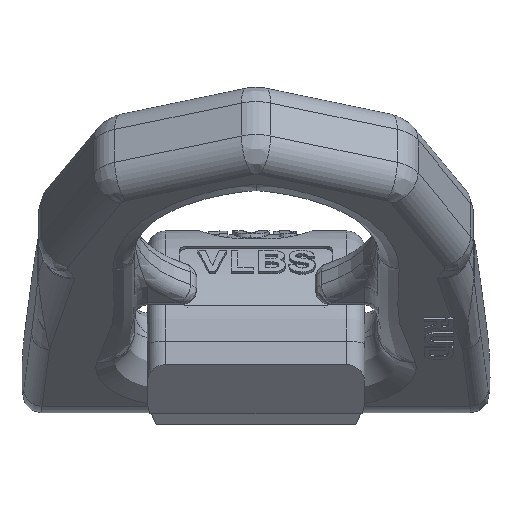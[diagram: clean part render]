
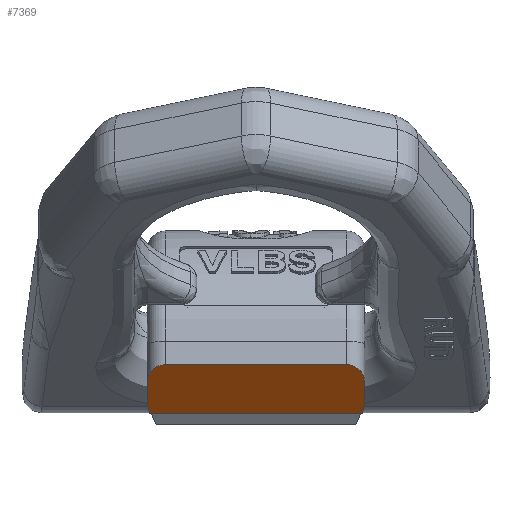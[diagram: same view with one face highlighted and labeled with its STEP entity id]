
A CAD part, top view. The second image highlights one B-rep face of the part: STEP entity #7369.
In plain terms, the highlighted planar face has unit normal (0, -0.643, 0.766).
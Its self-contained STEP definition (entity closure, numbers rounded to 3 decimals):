
#2=DIRECTION('',(0.,-0.766,-0.643));
#3=VECTOR('',#2,5.783);
#4=CARTESIAN_POINT('',(-30.,11.5,33.305));
#5=LINE('',#4,#3);
#59=DIRECTION('',(0.,-0.766,-0.643));
#60=VECTOR('',#59,5.783);
#61=CARTESIAN_POINT('',(30.,11.5,33.305));
#62=LINE('',#61,#60);
#450=CARTESIAN_POINT('',(-29.347,3.,26.172));
#451=CARTESIAN_POINT('',(-29.787,4.335,27.293));
#452=CARTESIAN_POINT('',(-30.,5.692,28.431));
#453=CARTESIAN_POINT('',(-30.,7.07,29.587));
#481=CARTESIAN_POINT('',(25.,16.5,37.5));
#482=CARTESIAN_POINT('',(25.48,16.5,37.5));
#483=CARTESIAN_POINT('',(26.277,16.374,37.395));
#484=CARTESIAN_POINT('',(27.557,15.883,36.983));
#485=CARTESIAN_POINT('',(28.749,14.957,36.205));
#486=CARTESIAN_POINT('',(29.704,13.48,34.966));
#487=CARTESIAN_POINT('',(30.,12.236,33.922));
#488=CARTESIAN_POINT('',(30.,11.5,33.305));
#494=DIRECTION('',(1.,0.,0.));
#495=VECTOR('',#494,50.);
#496=CARTESIAN_POINT('',(-25.,16.5,37.5));
#497=LINE('',#496,#495);
#511=CARTESIAN_POINT('',(-30.,11.5,33.305));
#512=CARTESIAN_POINT('',(-30.,12.236,33.922));
#513=CARTESIAN_POINT('',(-29.704,13.48,34.966));
#514=CARTESIAN_POINT('',(-28.749,14.957,36.205));
#515=CARTESIAN_POINT('',(-27.557,15.883,36.983));
#516=CARTESIAN_POINT('',(-26.277,16.374,37.395));
#517=CARTESIAN_POINT('',(-25.48,16.5,37.5));
#518=CARTESIAN_POINT('',(-25.,16.5,37.5));
#5432=CARTESIAN_POINT('',(30.,7.07,29.587));
#5433=CARTESIAN_POINT('',(30.,5.692,28.431));
#5434=CARTESIAN_POINT('',(29.787,4.335,27.293));
#5435=CARTESIAN_POINT('',(29.347,3.,26.172));
#5458=DIRECTION('',(-1.,0.,0.));
#5459=VECTOR('',#5458,58.693);
#5460=CARTESIAN_POINT('',(29.347,3.,26.172));
#5461=LINE('',#5460,#5459);
#5658=CARTESIAN_POINT('',(25.,16.5,37.5));
#5660=VERTEX_POINT('',#5658);
#5663=CARTESIAN_POINT('',(-25.,16.5,37.5));
#5665=VERTEX_POINT('',#5663);
#5958=CARTESIAN_POINT('',(30.,7.07,29.587));
#5959=VERTEX_POINT('',#5958);
#5960=CARTESIAN_POINT('',(-30.,7.07,29.587));
#5961=VERTEX_POINT('',#5960);
#5964=CARTESIAN_POINT('',(30.,11.5,33.305));
#5965=VERTEX_POINT('',#5964);
#5966=CARTESIAN_POINT('',(-30.,11.5,33.305));
#5967=VERTEX_POINT('',#5966);
#6211=VERTEX_POINT('',#5435);
#6212=VERTEX_POINT('',#450);
#7349=CARTESIAN_POINT('',(36.,16.5,37.5));
#7350=DIRECTION('',(0.,-0.643,0.766));
#7351=DIRECTION('',(0.,-0.766,-0.643));
#7352=AXIS2_PLACEMENT_3D('',#7349,#7350,#7351);
#7353=PLANE('',#7352);
#7355=ORIENTED_EDGE('',*,*,#7354,.T.);
#7356=ORIENTED_EDGE('',*,*,#6778,.T.);
#7358=ORIENTED_EDGE('',*,*,#7357,.T.);
#7360=ORIENTED_EDGE('',*,*,#7359,.T.);
#7361=ORIENTED_EDGE('',*,*,#7335,.T.);
#7362=ORIENTED_EDGE('',*,*,#6688,.F.);
#7364=ORIENTED_EDGE('',*,*,#7363,.T.);
#7366=ORIENTED_EDGE('',*,*,#7365,.T.);
#7367=EDGE_LOOP('',(#7355,#7356,#7358,#7360,#7361,#7362,#7364,#7366));
#7368=FACE_OUTER_BOUND('',#7367,.F.);
#7369=ADVANCED_FACE('',(#7368),#7353,.T.);
#454=B_SPLINE_CURVE_WITH_KNOTS('',3,(#450,#451,#452,#453),.UNSPECIFIED.,.F.,.F.,
(4,4),(0.,1.),.UNSPECIFIED.);
#489=B_SPLINE_CURVE_WITH_KNOTS('',3,(#481,#482,#483,#484,#485,#486,#487,#488),
.UNSPECIFIED.,.F.,.F.,(4,1,1,1,1,4),(0.,0.125,0.25,0.5,0.75,1.),
.UNSPECIFIED.);
#519=B_SPLINE_CURVE_WITH_KNOTS('',3,(#511,#512,#513,#514,#515,#516,#517,#518),
.UNSPECIFIED.,.F.,.F.,(4,1,1,1,1,4),(0.,0.25,0.5,0.75,0.875,1.),
.UNSPECIFIED.);
#5436=B_SPLINE_CURVE_WITH_KNOTS('',3,(#5432,#5433,#5434,#5435),.UNSPECIFIED.,
.F.,.F.,(4,4),(0.,1.),.UNSPECIFIED.);
#6688=EDGE_CURVE('',#5967,#5961,#5,.T.);
#6778=EDGE_CURVE('',#5965,#5959,#62,.T.);
#7335=EDGE_CURVE('',#6212,#5961,#454,.T.);
#7354=EDGE_CURVE('',#5660,#5965,#489,.T.);
#7357=EDGE_CURVE('',#5959,#6211,#5436,.T.);
#7359=EDGE_CURVE('',#6211,#6212,#5461,.T.);
#7363=EDGE_CURVE('',#5967,#5665,#519,.T.);
#7365=EDGE_CURVE('',#5665,#5660,#497,.T.);
